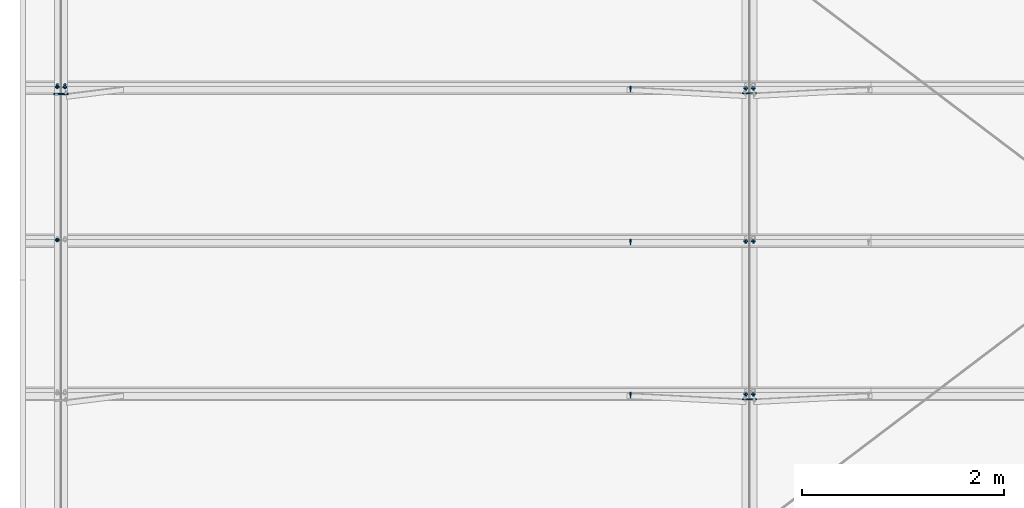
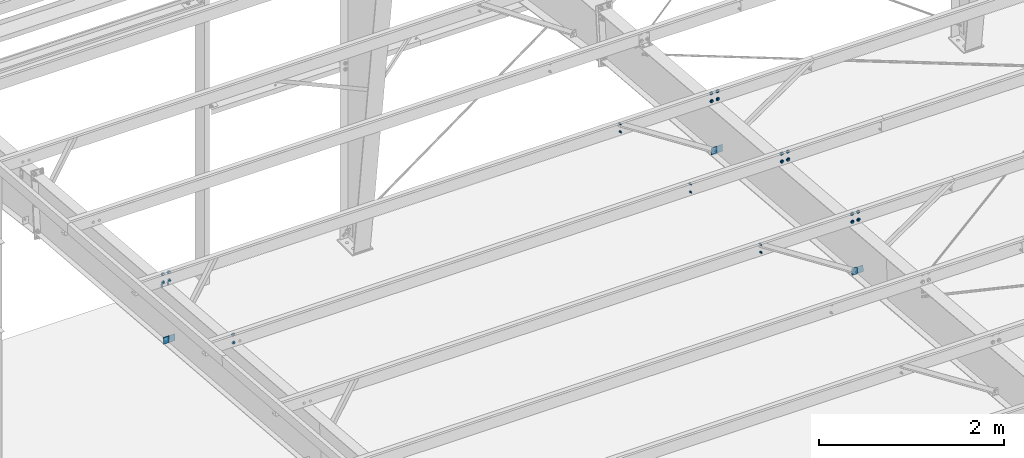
# One storey, part 81 of 185: 13 mechanical fasteners, 6 discrete accessories, 8 elements without a shape of their own.
"""IFC2X3 building model written with IfcOpenShell, lengths in millimetres."""

from ifc_helpers import new_model, si_unit, frame, origin_with_axes, origin_2d_with_axis, place, context, subcontext, project, spatial, polyline, rectangle, circle, outline, extrude, source, transform, mapped, material, type_object, element, aggregate, save


model = new_model("IFC2X3")

# Units and contexts
model_context = context("Model", 3, precision=1e-05, world=origin_with_axes())
body_context = subcontext(model_context, "Body", "Model", "MODEL_VIEW")
ifc_project = project(units=[si_unit("LENGTHUNIT", "METRE", prefix="MILLI"), si_unit("AREAUNIT", "SQUARE_METRE"), si_unit("VOLUMEUNIT", "CUBIC_METRE"), si_unit("MASSUNIT", "GRAM", prefix="KILO"), si_unit("TIMEUNIT", "SECOND"), si_unit("PLANEANGLEUNIT", "RADIAN"), si_unit("SOLIDANGLEUNIT", "STERADIAN"), si_unit("THERMODYNAMICTEMPERATUREUNIT", "DEGREE_CELSIUS"), si_unit("LUMINOUSINTENSITYUNIT", "LUMEN")], contexts=[model_context])

# Site, building, storey
site_placement = place(None, origin_with_axes())
site = spatial("IfcSite", under=ifc_project, at=site_placement, Name="Undefined", CompositionType="ELEMENT")
building_placement = place(site_placement, origin_with_axes())
building = spatial("IfcBuilding", under=site, at=building_placement, Name="Undefined", CompositionType="ELEMENT")
storey_placement = place(building_placement, origin_with_axes())
storey = spatial("IfcBuildingStorey", under=building, at=storey_placement, Name="Undefined", CompositionType="ELEMENT", Elevation=0.0)

# Assembly, mechanical fasteners
assembly_1_placement = place(storey_placement, origin_with_axes())
assembly_1 = element("IfcElementAssembly", 1, at=assembly_1_placement, inside=storey, Name="Steel Assembly", AssemblyPlace="NOTDEFINED", PredefinedType="RIGID_FRAME")
ifc_material_1 = material(Name="Undefined")
discrete_accessory_type_1 = type_object("IfcDiscreteAccessoryType", Name="Bolt assembly")
shared_shape_1 = source(origin_with_axes(), body_context, "Body", "SweptSolid", [
    extrude(circle(Radius=7.14374971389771, at=origin_2d_with_axis()), frame((0.0, -1.59000001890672, 0.0), z_axis=(0.0, 1.0, 0.0), x_axis=(1.0, 0.0, 0.0)), (0.0, 0.0, 1.0), 3.3),
    extrude(circle(Radius=13.4937496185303, at=origin_2d_with_axis()), frame((0.0, -5.5587500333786, 0.0), z_axis=(0.0, 1.0, 0.0), x_axis=(1.0, 0.0, 0.0)), (0.0, 0.0, 1.0), 4.0),
    extrude(circle(Radius=22.2250003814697, at=origin_2d_with_axis()), frame((0.0, 1.5900000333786, 0.0), z_axis=(0.0, 1.0, 0.0), x_axis=(1.0, 0.0, 0.0)), (0.0, 0.0, 1.0), 7.9),
    extrude(outline(polyline([(12.8316099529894, 0.0), (6.4158049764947, 11.1125001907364), (-6.4158049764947, 11.1125001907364), (-12.8316099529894, 0.0), (-6.4158049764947, -11.1125001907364), (6.4158049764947, -11.1125001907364), (12.8316099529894, 0.0)])), frame((0.0, 9.5275000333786, 0.0), z_axis=(0.0, 1.0, 0.0), x_axis=(1.0, 0.0, 0.0)), (0.0, 0.0, 1.0), 12.3),
])
mechanical_fastener_1_placement = place(assembly_1_placement, frame((444.500000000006, 23895.206690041, 6720.75669348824), z_axis=(1.0, 0.0, 0.0), x_axis=(0.0, -0.0830454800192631, -0.996545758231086)))
mechanical_fastener_1 = element("IfcMechanicalFastener", 2, at=mechanical_fastener_1_placement, type_object=discrete_accessory_type_1, material=ifc_material_1, Name="Bolt assembly", NominalDiameter=12.6999998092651, NominalLength=38.0999984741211, context=body_context, shape_type="MappedRepresentation", body=[
    mapped(shared_shape_1, transform((0.0, 0.0, 0.0))),
    mapped(shared_shape_1, transform((101.599998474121, 0.0, 0.0))),
])
mechanical_fastener_2_placement = place(assembly_1_placement, frame((368.300000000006, 23895.206690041, 6720.75669348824), z_axis=(1.0, 0.0, 0.0), x_axis=(0.0, -0.0830454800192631, -0.996545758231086)))
mechanical_fastener_2 = element("IfcMechanicalFastener", 3, at=mechanical_fastener_2_placement, type_object=discrete_accessory_type_1, material=ifc_material_1, Name="Bolt assembly", NominalDiameter=12.6999998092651, NominalLength=38.0999984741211, context=body_context, shape_type="MappedRepresentation", body=[
    mapped(shared_shape_1, transform((0.0, 0.0, 0.0))),
    mapped(shared_shape_1, transform((101.599998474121, 0.0, 0.0))),
])

# Assembly, mechanical fastener
assembly_2_placement = place(storey_placement, origin_with_axes())
assembly_2 = element("IfcElementAssembly", 4, at=assembly_2_placement, inside=storey, Name="Steel Assembly", AssemblyPlace="NOTDEFINED", PredefinedType="RIGID_FRAME")
mechanical_fastener_3_placement = place(assembly_2_placement, frame((368.300000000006, 22376.470954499, 6847.3180050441), z_axis=(1.0, 0.0, 0.0), x_axis=(0.0, -0.0830454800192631, -0.996545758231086)))
mechanical_fastener_3 = element("IfcMechanicalFastener", 5, at=mechanical_fastener_3_placement, type_object=discrete_accessory_type_1, material=ifc_material_1, Name="Bolt assembly", NominalDiameter=12.6999998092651, NominalLength=38.0999984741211, context=body_context, shape_type="MappedRepresentation", body=[
    mapped(shared_shape_1, transform((0.0, 0.0, 0.0))),
    mapped(shared_shape_1, transform((101.599998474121, 0.0, 0.0))),
])

assembly_3_placement = place(storey_placement, origin_with_axes())
assembly_3 = element("IfcElementAssembly", 6, at=assembly_3_placement, inside=storey, Name="Steel Assembly", AssemblyPlace="NOTDEFINED", PredefinedType="RIGID_FRAME")
mechanical_fastener_4_placement = place(assembly_3_placement, frame((7200.9, 23895.20669004, 6720.75669347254), z_axis=(-1.0, 0.0, 0.0), x_axis=(0.0, -0.0830454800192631, -0.996545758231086)))
mechanical_fastener_4 = element("IfcMechanicalFastener", 7, at=mechanical_fastener_4_placement, type_object=discrete_accessory_type_1, material=ifc_material_1, Name="Bolt assembly", NominalDiameter=12.6999998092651, NominalLength=38.0999984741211, context=body_context, shape_type="MappedRepresentation", body=[
    mapped(shared_shape_1, transform((0.0, 0.0, 0.0))),
    mapped(shared_shape_1, transform((101.599998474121, 0.0, 0.0))),
])
aggregate(assembly_3, [mechanical_fastener_4])

# Mechanical fastener
mechanical_fastener_5_placement = place(assembly_1_placement, frame((7277.1, 23895.20669004, 6720.75669347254), z_axis=(-1.0, 0.0, 0.0), x_axis=(0.0, -0.0830454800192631, -0.996545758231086)))
mechanical_fastener_5 = element("IfcMechanicalFastener", 8, at=mechanical_fastener_5_placement, type_object=discrete_accessory_type_1, material=ifc_material_1, Name="Bolt assembly", NominalDiameter=12.6999998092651, NominalLength=38.0999984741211, context=body_context, shape_type="MappedRepresentation", body=[
    mapped(shared_shape_1, transform((0.0, 0.0, 0.0))),
    mapped(shared_shape_1, transform((101.599998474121, 0.0, 0.0))),
])

# Assembly, mechanical fastener
assembly_4_placement = place(storey_placement, origin_with_axes())
assembly_4 = element("IfcElementAssembly", 9, at=assembly_4_placement, inside=storey, Name="Steel Assembly", AssemblyPlace="NOTDEFINED", PredefinedType="RIGID_FRAME")
mechanical_fastener_6_placement = place(assembly_4_placement, frame((7200.9, 22376.4709544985, 6847.31800501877), z_axis=(-1.0, 0.0, 0.0), x_axis=(0.0, -0.0830454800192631, -0.996545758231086)))
mechanical_fastener_6 = element("IfcMechanicalFastener", 10, at=mechanical_fastener_6_placement, type_object=discrete_accessory_type_1, material=ifc_material_1, Name="Bolt assembly", NominalDiameter=12.6999998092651, NominalLength=38.0999984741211, context=body_context, shape_type="MappedRepresentation", body=[
    mapped(shared_shape_1, transform((0.0, 0.0, 0.0))),
    mapped(shared_shape_1, transform((101.599998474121, 0.0, 0.0))),
])
aggregate(assembly_4, [mechanical_fastener_6])

# Mechanical fastener
mechanical_fastener_7_placement = place(assembly_2_placement, frame((7277.1, 22376.4709544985, 6847.31800501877), z_axis=(-1.0, 0.0, 0.0), x_axis=(0.0, -0.0830454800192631, -0.996545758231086)))
mechanical_fastener_7 = element("IfcMechanicalFastener", 11, at=mechanical_fastener_7_placement, type_object=discrete_accessory_type_1, material=ifc_material_1, Name="Bolt assembly", NominalDiameter=12.6999998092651, NominalLength=38.0999984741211, context=body_context, shape_type="MappedRepresentation", body=[
    mapped(shared_shape_1, transform((0.0, 0.0, 0.0))),
    mapped(shared_shape_1, transform((101.599998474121, 0.0, 0.0))),
])

# Assembly, mechanical fastener
assembly_5_placement = place(storey_placement, origin_with_axes())
assembly_5 = element("IfcElementAssembly", 12, at=assembly_5_placement, inside=storey, Name="Steel Assembly", AssemblyPlace="NOTDEFINED", PredefinedType="RIGID_FRAME")
mechanical_fastener_8_placement = place(assembly_5_placement, frame((7200.9, 20857.735218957, 6973.87931656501), z_axis=(-1.0, 0.0, 0.0), x_axis=(0.0, -0.0830454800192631, -0.996545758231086)))
mechanical_fastener_8 = element("IfcMechanicalFastener", 13, at=mechanical_fastener_8_placement, type_object=discrete_accessory_type_1, material=ifc_material_1, Name="Bolt assembly", NominalDiameter=12.6999998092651, NominalLength=38.0999984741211, context=body_context, shape_type="MappedRepresentation", body=[
    mapped(shared_shape_1, transform((0.0, 0.0, 0.0))),
    mapped(shared_shape_1, transform((101.599998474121, 0.0, 0.0))),
])
aggregate(assembly_5, [mechanical_fastener_8])

assembly_6_placement = place(storey_placement, origin_with_axes())
assembly_6 = element("IfcElementAssembly", 14, at=assembly_6_placement, inside=storey, Name="Steel Assembly", AssemblyPlace="NOTDEFINED", PredefinedType="RIGID_FRAME")
mechanical_fastener_9_placement = place(assembly_6_placement, frame((7277.1, 20857.735218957, 6973.87931656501), z_axis=(-1.0, 0.0, 0.0), x_axis=(0.0, -0.0830454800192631, -0.996545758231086)))
mechanical_fastener_9 = element("IfcMechanicalFastener", 15, at=mechanical_fastener_9_placement, type_object=discrete_accessory_type_1, material=ifc_material_1, Name="Bolt assembly", NominalDiameter=12.6999998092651, NominalLength=38.0999984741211, context=body_context, shape_type="MappedRepresentation", body=[
    mapped(shared_shape_1, transform((0.0, 0.0, 0.0))),
    mapped(shared_shape_1, transform((101.599998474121, 0.0, 0.0))),
])

# Assembly, discrete accessories
assembly_7_placement = place(storey_placement, origin_with_axes())
assembly_7 = element("IfcElementAssembly", 16, at=assembly_7_placement, inside=storey, Name="Steel Assembly", AssemblyPlace="NOTDEFINED", PredefinedType="RIGID_FRAME")
ifc_material_2 = material(Name="STEEL/55")
discrete_accessory_type_2 = type_object("IfcDiscreteAccessoryType", Name="FLANGE BRACE FLIP")
discrete_accessory_1_placement = place(assembly_7_placement, frame((408.108150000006, 23828.2229118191, 5896.38431117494), z_axis=(0.0, -0.0830454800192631, -0.996545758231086), x_axis=(1.0, 0.0, 0.0)))
discrete_accessory_1 = element("IfcDiscreteAccessory", 17, at=discrete_accessory_1_placement, type_object=discrete_accessory_type_2, material=ifc_material_2, Name="FLANGE BRACE FLIP", ObjectType="PL1/8\"X2 3/4\"", context=body_context, shape_type="SweptSolid", body=[
    extrude(rectangle(XDim=3.416, YDim=85.725, at=origin_2d_with_axis()), frame((69.8499999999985, 0.0, 0.0), z_axis=(-1.0, 0.0, 0.0), x_axis=(0.0, -1.0, 0.0)), (0.0, 0.0, 1.0), 69.8),
])
discrete_accessory_2_placement = place(assembly_7_placement, frame((404.691850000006, 23828.2229118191, 5896.38431117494), z_axis=(0.0, -0.0830454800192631, -0.996545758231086), x_axis=(-1.0, 0.0, 0.0)))
discrete_accessory_2 = element("IfcDiscreteAccessory", 18, at=discrete_accessory_2_placement, type_object=discrete_accessory_type_2, material=ifc_material_2, Name="FLANGE BRACE FLIP", ObjectType="PL1/8\"X2 3/4\"", context=body_context, shape_type="SweptSolid", body=[
    extrude(rectangle(XDim=3.416, YDim=85.725, at=origin_2d_with_axis()), frame((69.8499999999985, 0.0, 0.0), z_axis=(-1.0, 0.0, 0.0), x_axis=(0.0, -1.0, 0.0)), (0.0, 0.0, 1.0), 69.8),
])
aggregate(assembly_7, [discrete_accessory_1, discrete_accessory_2])

assembly_8_placement = place(storey_placement, origin_with_axes())
assembly_8 = element("IfcElementAssembly", 19, at=assembly_8_placement, inside=storey, Name="Steel Assembly", AssemblyPlace="NOTDEFINED", PredefinedType="RIGID_FRAME")
discrete_accessory_3_placement = place(assembly_8_placement, frame((7237.29185, 23836.5274434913, 5996.03869125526), z_axis=(0.0, 0.0830454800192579, 0.996545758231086), x_axis=(-1.0, 0.0, 0.0)))
discrete_accessory_3 = element("IfcDiscreteAccessory", 20, at=discrete_accessory_3_placement, type_object=discrete_accessory_type_2, material=ifc_material_2, Name="FLANGE BRACE FLIP", ObjectType="PL1/8\"X2 3/4\"", context=body_context, shape_type="SweptSolid", body=[
    extrude(rectangle(XDim=3.416, YDim=85.725, at=origin_2d_with_axis()), frame((69.8499999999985, 0.0, 0.0), z_axis=(-1.0, 0.0, 0.0), x_axis=(0.0, -1.0, 0.0)), (0.0, 0.0, 1.0), 69.9),
])
discrete_accessory_4_placement = place(assembly_8_placement, frame((7240.70815, 23836.5274434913, 5996.03869125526), z_axis=(0.0, 0.0830454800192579, 0.996545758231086), x_axis=(1.0, 0.0, 0.0)))
discrete_accessory_4 = element("IfcDiscreteAccessory", 21, at=discrete_accessory_4_placement, type_object=discrete_accessory_type_2, material=ifc_material_2, Name="FLANGE BRACE FLIP", ObjectType="PL1/8\"X2 3/4\"", context=body_context, shape_type="SweptSolid", body=[
    extrude(rectangle(XDim=3.416, YDim=85.725, at=origin_2d_with_axis()), frame((69.8499999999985, 0.0, 0.0), z_axis=(-1.0, 0.0, 0.0), x_axis=(0.0, -1.0, 0.0)), (0.0, 0.0, 1.0), 69.9),
])
discrete_accessory_5_placement = place(assembly_8_placement, frame((7237.29185, 20799.0559723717, 6249.16131384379), z_axis=(0.0, 0.0830454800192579, 0.996545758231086), x_axis=(-1.0, 0.0, 0.0)))
discrete_accessory_5 = element("IfcDiscreteAccessory", 22, at=discrete_accessory_5_placement, type_object=discrete_accessory_type_2, material=ifc_material_2, Name="FLANGE BRACE FLIP", ObjectType="PL1/8\"X2 3/4\"", context=body_context, shape_type="SweptSolid", body=[
    extrude(rectangle(XDim=3.416, YDim=85.725, at=origin_2d_with_axis()), frame((69.8499999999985, 0.0, 0.0), z_axis=(-1.0, 0.0, 0.0), x_axis=(0.0, -1.0, 0.0)), (0.0, 0.0, 1.0), 69.9),
])
discrete_accessory_6_placement = place(assembly_8_placement, frame((7240.70815, 20799.0559723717, 6249.16131384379), z_axis=(0.0, 0.0830454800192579, 0.996545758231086), x_axis=(1.0, 0.0, 0.0)))
discrete_accessory_6 = element("IfcDiscreteAccessory", 23, at=discrete_accessory_6_placement, type_object=discrete_accessory_type_2, material=ifc_material_2, Name="FLANGE BRACE FLIP", ObjectType="PL1/8\"X2 3/4\"", context=body_context, shape_type="SweptSolid", body=[
    extrude(rectangle(XDim=3.416, YDim=85.725, at=origin_2d_with_axis()), frame((69.8499999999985, 0.0, 0.0), z_axis=(-1.0, 0.0, 0.0), x_axis=(0.0, -1.0, 0.0)), (0.0, 0.0, 1.0), 69.9),
])
aggregate(assembly_8, [discrete_accessory_3, discrete_accessory_4, discrete_accessory_5, discrete_accessory_6])

# Mechanical fastener
shared_shape_2 = source(origin_with_axes(), body_context, "Body", "SweptSolid", [
    extrude(circle(Radius=7.14374971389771, at=origin_2d_with_axis()), frame((0.0, -1.4900000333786, 0.0), z_axis=(0.0, 1.0, 0.0), x_axis=(1.0, 0.0, 0.0)), (0.0, 0.0, 1.0), 3.2),
    extrude(circle(Radius=7.14374971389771, at=origin_2d_with_axis()), frame((0.0, -1.4900000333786, 0.0), z_axis=(0.0, 1.0, 0.0), x_axis=(1.0, 0.0, 0.0)), (0.0, 0.0, 1.0), 3.2),
    extrude(outline(polyline([(10.9985221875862, 0.0), (5.4992610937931, 9.52499961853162), (-5.4992610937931, 9.52499961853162), (-10.9985221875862, 0.0), (-5.4992610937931, -9.52499961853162), (5.4992610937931, -9.52499961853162), (10.9985221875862, 0.0)])), frame((0.0, -11.1149996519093, 0.0), z_axis=(0.0, 1.0, 0.0), x_axis=(1.0, 0.0, 0.0)), (0.0, 0.0, 1.0), 9.5),
    extrude(circle(Radius=6.34999990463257, at=origin_2d_with_axis()), frame((0.0, -1.59000001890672, 0.0), z_axis=(0.0, 1.0, 0.0), x_axis=(1.0, 0.0, 0.0)), (0.0, 0.0, 1.0), 38.1),
    extrude(outline(polyline([(12.8316099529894, 0.0), (6.4158049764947, 11.1125001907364), (-6.4158049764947, 11.1125001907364), (-12.8316099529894, 0.0), (-6.4158049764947, -11.1125001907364), (6.4158049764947, -11.1125001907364), (12.8316099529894, 0.0)])), frame((0.0, 1.5900000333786, 0.0), z_axis=(0.0, 1.0, 0.0), x_axis=(1.0, 0.0, 0.0)), (0.0, 0.0, 1.0), 12.3),
])
mechanical_fastener_10_placement = place(assembly_6_placement, frame((6057.9, 20857.7352189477, 6973.87931657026), z_axis=(-1.0, 0.0, 0.0), x_axis=(0.0, -0.0830454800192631, -0.996545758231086)))
mechanical_fastener_10 = element("IfcMechanicalFastener", 24, at=mechanical_fastener_10_placement, type_object=discrete_accessory_type_1, material=ifc_material_1, Name="Bolt assembly", NominalDiameter=12.6999998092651, NominalLength=38.0999984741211, context=body_context, shape_type="MappedRepresentation", body=[
    mapped(shared_shape_2, transform((0.0, 0.0, 0.0))),
    mapped(shared_shape_2, transform((101.599998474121, 0.0, 0.0))),
])

aggregate(assembly_6, [mechanical_fastener_10, mechanical_fastener_9])

mechanical_fastener_11_placement = place(assembly_2_placement, frame((6057.9, 22376.4709544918, 6847.31800502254), z_axis=(-1.0, 0.0, 0.0), x_axis=(0.0, -0.0830454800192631, -0.996545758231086)))
mechanical_fastener_11 = element("IfcMechanicalFastener", 25, at=mechanical_fastener_11_placement, type_object=discrete_accessory_type_1, material=ifc_material_1, Name="Bolt assembly", NominalDiameter=12.6999998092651, NominalLength=38.0999984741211, context=body_context, shape_type="MappedRepresentation", body=[
    mapped(shared_shape_2, transform((0.0, 0.0, 0.0))),
    mapped(shared_shape_2, transform((101.599998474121, 0.0, 0.0))),
])

aggregate(assembly_2, [mechanical_fastener_11, mechanical_fastener_3, mechanical_fastener_7])

mechanical_fastener_12_placement = place(assembly_1_placement, frame((6057.9, 23895.2066900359, 6720.75669347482), z_axis=(-1.0, 0.0, 0.0), x_axis=(0.0, -0.0830454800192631, -0.996545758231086)))
mechanical_fastener_12 = element("IfcMechanicalFastener", 26, at=mechanical_fastener_12_placement, type_object=discrete_accessory_type_1, material=ifc_material_1, Name="Bolt assembly", NominalDiameter=12.6999998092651, NominalLength=38.0999984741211, context=body_context, shape_type="MappedRepresentation", body=[
    mapped(shared_shape_2, transform((0.0, 0.0, 0.0))),
    mapped(shared_shape_2, transform((101.599998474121, 0.0, 0.0))),
])

shared_shape_3 = source(origin_with_axes(), body_context, "Body", "SweptSolid", [
    extrude(circle(Radius=7.14374971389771, at=origin_2d_with_axis()), frame((0.0, -0.1, 0.0), z_axis=(0.0, 1.0, 0.0), x_axis=(1.0, 0.0, 0.0)), (0.0, 0.0, 1.0), 6.5),
    extrude(circle(Radius=7.14374971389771, at=origin_2d_with_axis()), frame((0.0, -3.08000006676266, 0.0), z_axis=(0.0, 1.0, 0.0), x_axis=(1.0, 0.0, 0.0)), (0.0, 0.0, 1.0), 3.2),
    extrude(outline(polyline([(10.9985221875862, 0.0), (5.4992610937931, 9.52499961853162), (-5.4992610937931, 9.52499961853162), (-10.9985221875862, 0.0), (-5.4992610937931, -9.52499961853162), (5.4992610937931, -9.52499961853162), (10.9985221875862, 0.0)])), frame((0.0, -16.6737496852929, 0.0), z_axis=(0.0, 1.0, 0.0), x_axis=(1.0, 0.0, 0.0)), (0.0, 0.0, 1.0), 9.5),
    extrude(circle(Radius=6.34999990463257, at=origin_2d_with_axis()), frame((0.0, -7.14875006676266, 0.0), z_axis=(0.0, 1.0, 0.0), x_axis=(1.0, 0.0, 0.0)), (0.0, 0.0, 1.0), 38.1),
    extrude(circle(Radius=13.4937496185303, at=origin_2d_with_axis()), frame((0.0, -7.14875006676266, 0.0), z_axis=(0.0, 1.0, 0.0), x_axis=(1.0, 0.0, 0.0)), (0.0, 0.0, 1.0), 4.0),
    extrude(outline(polyline([(12.8316099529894, 0.0), (6.4158049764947, 11.1125001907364), (-6.4158049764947, 11.1125001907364), (-12.8316099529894, 0.0), (-6.4158049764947, -11.1125001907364), (6.4158049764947, -11.1125001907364), (12.8316099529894, 0.0)])), frame((0.0, 6.35000000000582, 0.0), z_axis=(0.0, 1.0, 0.0), x_axis=(1.0, 0.0, 0.0)), (0.0, 0.0, 1.0), 12.3),
])
mechanical_fastener_13_placement = place(assembly_1_placement, frame((406.400000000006, 23920.5189523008, 6565.71908714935), z_axis=(-1.0, 0.0, 0.0), x_axis=(0.0, 0.996545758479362, -0.0830454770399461)))
mechanical_fastener_13 = element("IfcMechanicalFastener", 27, at=mechanical_fastener_13_placement, type_object=discrete_accessory_type_1, material=ifc_material_1, Name="Bolt assembly", NominalDiameter=12.6999998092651, NominalLength=38.0999984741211, context=body_context, shape_type="MappedRepresentation", body=[
    mapped(shared_shape_3, transform((0.0, 0.0, -38.0999984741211))),
    mapped(shared_shape_3, transform((0.0, 0.0, 38.0999984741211))),
])

aggregate(assembly_1, [mechanical_fastener_12, mechanical_fastener_13, mechanical_fastener_1, mechanical_fastener_2, mechanical_fastener_5])

save(model, "model.ifc")
